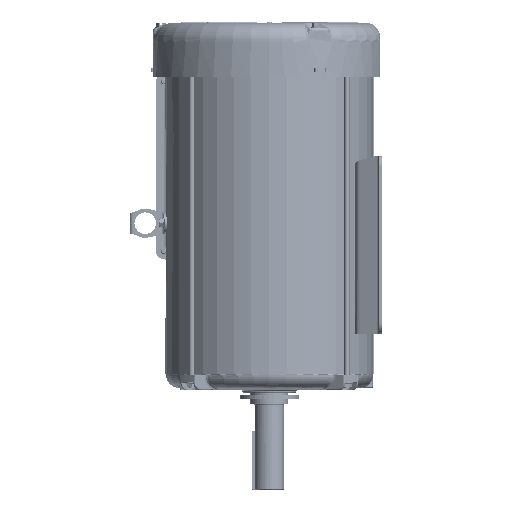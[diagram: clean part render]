
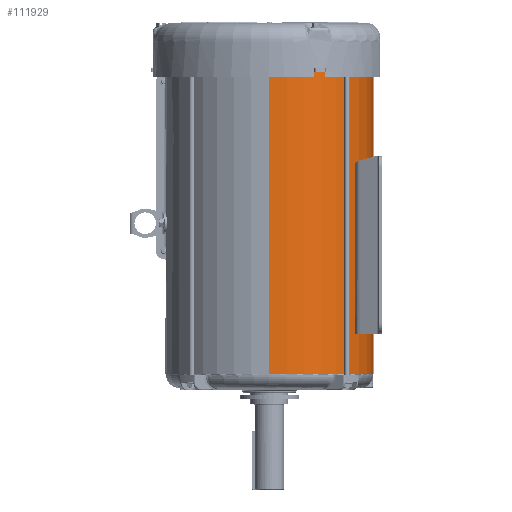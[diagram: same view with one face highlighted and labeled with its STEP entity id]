
A CAD part, left-side view. The second image highlights one B-rep face of the part: STEP entity #111929.
In plain terms, the highlighted cylindrical face has radius 122.53 mm (diameter 245.059 mm), a partial arc.
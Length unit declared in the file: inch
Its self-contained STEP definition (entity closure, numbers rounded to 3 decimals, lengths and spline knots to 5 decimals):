
#14843 = EDGE_CURVE ( 'NONE', #185086, #178337, #187373, .T. ) ;
#19007 = LINE ( 'NONE', #120635, #58673 ) ;
#20148 = VECTOR ( 'NONE', #48498, 39.37008 ) ;
#20225 = CARTESIAN_POINT ( 'NONE',  ( -4.824, 0., 19.38 ) ) ;
#26360 = CARTESIAN_POINT ( 'NONE',  ( -4.824, 0., 5.38 ) ) ;
#27799 = AXIS2_PLACEMENT_3D ( 'NONE', #100579, #236773, #237598 ) ;
#29509 = ORIENTED_EDGE ( 'NONE', *, *, #107761, .F. ) ;
#38108 = DIRECTION ( 'NONE',  ( 0., 0., 1. ) ) ;
#48498 = DIRECTION ( 'NONE',  ( 0., 0., 1. ) ) ;
#58673 = VECTOR ( 'NONE', #157220, 39.37008 ) ;
#58789 = DIRECTION ( 'NONE',  ( 1., 0., 0. ) ) ;
#62980 = LINE ( 'NONE', #26360, #20148 ) ;
#86635 = CARTESIAN_POINT ( 'NONE',  ( -0.09, -4.82316, 19.38 ) ) ;
#95328 = DIRECTION ( 'NONE',  ( 1., 0., 0. ) ) ;
#100579 = CARTESIAN_POINT ( 'NONE',  ( 0., 0., 5.38 ) ) ;
#107761 = EDGE_CURVE ( 'NONE', #133956, #185086, #62980, .T. ) ;
#111929 = ADVANCED_FACE ( 'NONE', ( #217806 ), #162855, .T. ) ;
#117470 = CARTESIAN_POINT ( 'NONE',  ( 0., 0., 5.38 ) ) ;
#119689 = EDGE_CURVE ( 'NONE', #133956, #172972, #220607, .T. ) ;
#120635 = CARTESIAN_POINT ( 'NONE',  ( -0.09, -4.82316, 5.38 ) ) ;
#133956 = VERTEX_POINT ( 'NONE', #135959 ) ;
#135959 = CARTESIAN_POINT ( 'NONE',  ( -4.824, 0., 5.38 ) ) ;
#144003 = ORIENTED_EDGE ( 'NONE', *, *, #169846, .T. ) ;
#157220 = DIRECTION ( 'NONE',  ( 0., 0., 1. ) ) ;
#162855 = CYLINDRICAL_SURFACE ( 'NONE', #27799, 4.824 ) ;
#169846 = EDGE_CURVE ( 'NONE', #172972, #178337, #19007, .T. ) ;
#172972 = VERTEX_POINT ( 'NONE', #225201 ) ;
#174692 = CARTESIAN_POINT ( 'NONE',  ( 0., 0., 19.38 ) ) ;
#178337 = VERTEX_POINT ( 'NONE', #86635 ) ;
#185086 = VERTEX_POINT ( 'NONE', #20225 ) ;
#187373 = CIRCLE ( 'NONE', #215900, 4.824 ) ;
#212068 = ORIENTED_EDGE ( 'NONE', *, *, #14843, .F. ) ;
#213828 = DIRECTION ( 'NONE',  ( 0., 0., 1. ) ) ;
#215900 = AXIS2_PLACEMENT_3D ( 'NONE', #174692, #213828, #58789 ) ;
#217806 = FACE_OUTER_BOUND ( 'NONE', #237006, .T. ) ;
#220607 = CIRCLE ( 'NONE', #241270, 4.824 ) ;
#225201 = CARTESIAN_POINT ( 'NONE',  ( -0.09, -4.82316, 5.38 ) ) ;
#235695 = ORIENTED_EDGE ( 'NONE', *, *, #119689, .T. ) ;
#236773 = DIRECTION ( 'NONE',  ( 0., 0., 1. ) ) ;
#237006 = EDGE_LOOP ( 'NONE', ( #29509, #235695, #144003, #212068 ) ) ;
#237598 = DIRECTION ( 'NONE',  ( 1., 0., 0. ) ) ;
#241270 = AXIS2_PLACEMENT_3D ( 'NONE', #117470, #38108, #95328 ) ;
